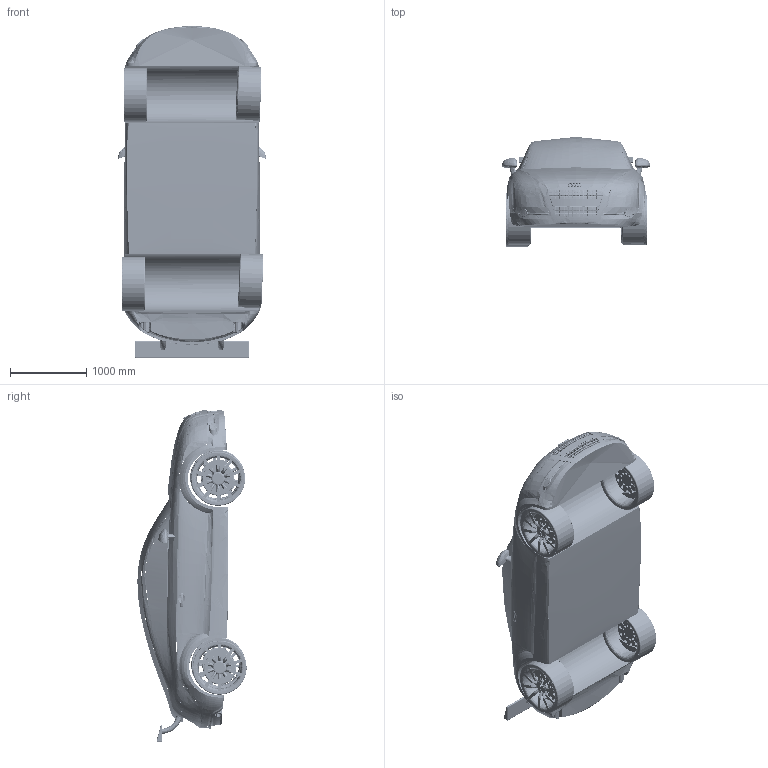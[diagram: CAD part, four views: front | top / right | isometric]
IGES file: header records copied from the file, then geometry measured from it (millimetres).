
Start section: SolidWorks IGES file using analytic representation for surfaces
Global section: file name: C:\Users\Venkat\Desktop\AudiTT.IGS; native system: SolidWorks 2011; preprocessor: SolidWorks 2011; author: Venkat; date: 120120.203319; units: millimetre
Bounding box: 1940.7 x 1432.09 x 4351.02 mm (x, y, z)
Surface area: 34876729.8 mm2 (no closed solid volume)
Topology: 0 solids, 0 shells, 1525 faces, 45828 edges, 45831 vertices
Faces by surface type: bspline 929, revolution 596
